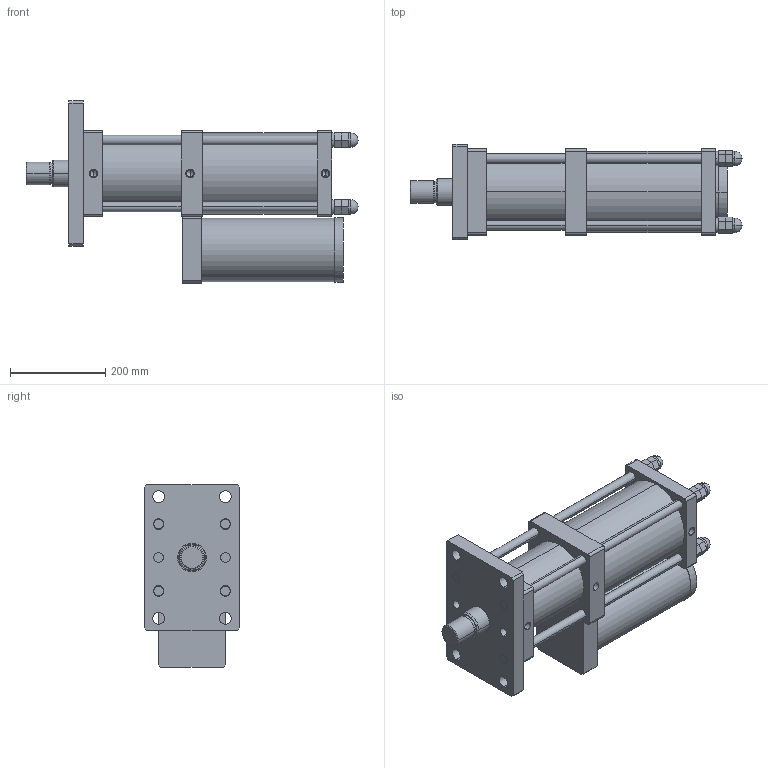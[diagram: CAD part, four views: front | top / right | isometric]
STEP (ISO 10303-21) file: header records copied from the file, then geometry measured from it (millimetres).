
FILE_DESCRIPTION (( 'STEP AP203' ), '1' );
FILE_NAME ('CPT-125-100-10-20T.STEP', '2016-03-12T01:53:32', ( 'WIN' ), ( '' ), 'SwSTEP 2.0', 'SolidWorks 2014', '' );
FILE_SCHEMA (( 'CONFIG_CONTROL_DESIGN' ));
Length unit declared in the file: millimetre
Products named in the file (1): CPT-125-100-10-20T
Bounding box: 696 x 200 x 382.5 mm (x, y, z)
Volume: 15879475.9 mm3; surface area: 1187138.3 mm2
Topology: 17 solids, 17 shells, 321 faces, 732 edges, 458 vertices
Faces by surface type: plane 155, cylinder 124, cone 30, sphere 8, torus 4
Entity records: 8969 total; most frequent: DIRECTION 1654, CARTESIAN_POINT 1480, ORIENTED_EDGE 1416, EDGE_CURVE 708, AXIS2_PLACEMENT_3D 624, VERTEX_POINT 450, LINE 406, VECTOR 406
